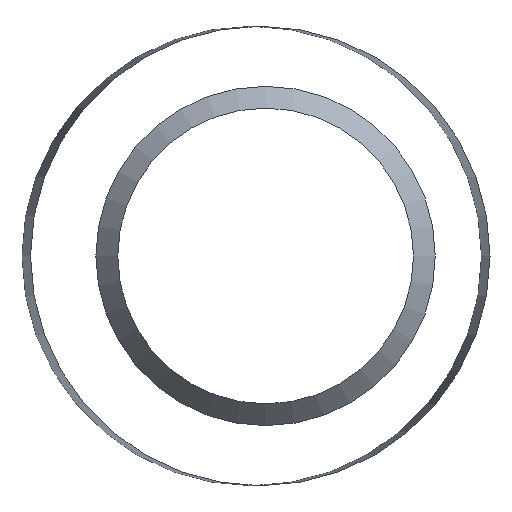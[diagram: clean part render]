
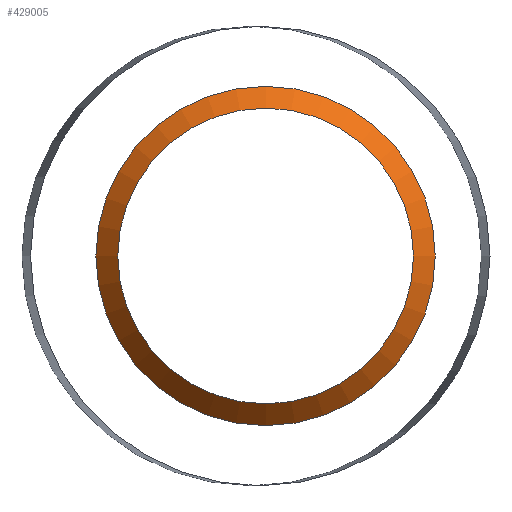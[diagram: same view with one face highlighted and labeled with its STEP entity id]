
A CAD part, left-side view. The second image highlights one B-rep face of the part: STEP entity #429005.
In plain terms, the highlighted conical face has half-angle 45 degrees and reference radius 0.249 mm.
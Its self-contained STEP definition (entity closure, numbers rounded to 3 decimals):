
#3906=CONICAL_SURFACE('',#460191,0.249,0.785);
#39457=FACE_OUTER_BOUND('',#68247,.T.);
#68247=EDGE_LOOP('',(#301091,#301092,#301093,#301094));
#101109=LINE('',#667778,#134425);
#134425=VECTOR('',#514427,0.249);
#166297=CIRCLE('',#460192,0.232);
#166298=CIRCLE('',#460193,0.266);
#191601=VERTEX_POINT('',#667775);
#191602=VERTEX_POINT('',#667777);
#233893=EDGE_CURVE('',#191601,#191601,#166297,.T.);
#233894=EDGE_CURVE('',#191601,#191602,#101109,.T.);
#233895=EDGE_CURVE('',#191602,#191602,#166298,.T.);
#301091=ORIENTED_EDGE('',*,*,#233893,.F.);
#301092=ORIENTED_EDGE('',*,*,#233894,.T.);
#301093=ORIENTED_EDGE('',*,*,#233895,.F.);
#301094=ORIENTED_EDGE('',*,*,#233894,.F.);
#429005=ADVANCED_FACE('',(#39457),#3906,.T.);
#460191=AXIS2_PLACEMENT_3D('',#667774,#514423,#514424);
#460192=AXIS2_PLACEMENT_3D('',#667776,#514425,#514426);
#460193=AXIS2_PLACEMENT_3D('',#667779,#514428,#514429);
#514423=DIRECTION('center_axis',(1.,0.003,
0.));
#514424=DIRECTION('ref_axis',(0.,0.,
-1.));
#514425=DIRECTION('center_axis',(-1.,-0.003,
0.));
#514426=DIRECTION('ref_axis',(0.,0.,
-1.));
#514427=DIRECTION('',(0.707,0.002,0.707));
#514428=DIRECTION('center_axis',(1.,0.003,
0.));
#514429=DIRECTION('ref_axis',(0.,0.,
-1.));
#667774=CARTESIAN_POINT('Origin',(-43.928,-0.031,
2.508));
#667775=CARTESIAN_POINT('',(-43.945,-0.031,2.74));
#667776=CARTESIAN_POINT('Origin',(-43.945,-0.031,
2.508));
#667777=CARTESIAN_POINT('',(-43.911,-0.031,2.774));
#667778=CARTESIAN_POINT('',(-43.928,-0.031,2.757));
#667779=CARTESIAN_POINT('Origin',(-43.911,-0.031,
2.508));
